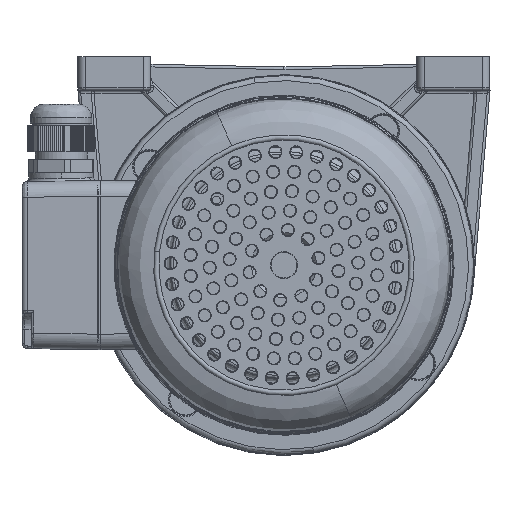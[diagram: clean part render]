
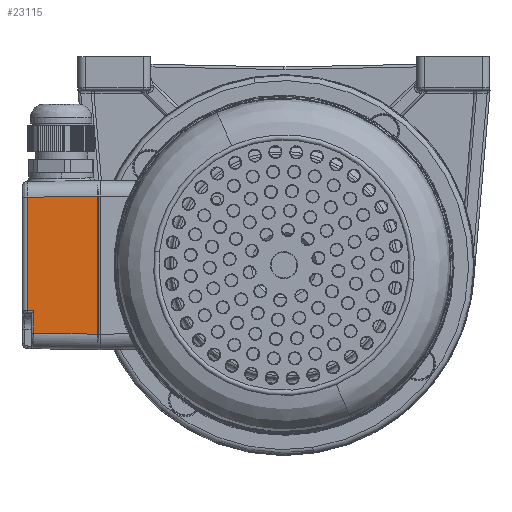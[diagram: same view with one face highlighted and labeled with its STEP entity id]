
A CAD part, front view. The second image highlights one B-rep face of the part: STEP entity #23115.
In plain terms, the highlighted planar face has unit normal (-0.018, -1, 0) as drawn and (-1, 0, 0.017) by its records, which use the part's own axes.
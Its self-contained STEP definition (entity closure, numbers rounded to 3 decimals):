
#15625 = VECTOR ( 'NONE', #25390, 1000. ) ;
#15701 = VECTOR ( 'NONE', #25839, 1000. ) ;
#15706 = VECTOR ( 'NONE', #25879, 1000. ) ;
#15709 = VECTOR ( 'NONE', #25885, 1000. ) ;
#15712 = VECTOR ( 'NONE', #25891, 1000. ) ;
#15716 = VECTOR ( 'NONE', #25897, 1000. ) ;
#23115 = ADVANCED_FACE ( 'NONE', ( #107122 ), #108549, .T. ) ;
#25386 = LINE ( 'NONE', #25388, #15625 ) ;
#25388 = CARTESIAN_POINT ( 'NONE',  ( -32.011, 17.473, 28.035 ) ) ;
#25390 = DIRECTION ( 'NONE',  ( 0., -1., 0. ) ) ;
#25835 = LINE ( 'NONE', #25837, #15701 ) ;
#25837 = CARTESIAN_POINT ( 'NONE',  ( -32.5, -26.501, 0. ) ) ;
#25839 = DIRECTION ( 'NONE',  ( -0.017, -0.017, -1. ) ) ;
#25875 = LINE ( 'NONE', #25877, #15706 ) ;
#25877 = CARTESIAN_POINT ( 'NONE',  ( -32.055, -29.151, 25.517 ) ) ;
#25879 = DIRECTION ( 'NONE',  ( 0., 1., 0. ) ) ;
#25881 = LINE ( 'NONE', #25883, #15709 ) ;
#25883 = CARTESIAN_POINT ( 'NONE',  ( -32.011, 17.473, 28.035 ) ) ;
#25885 = DIRECTION ( 'NONE',  ( -0.017, 0.017, -1. ) ) ;
#25887 = LINE ( 'NONE', #25889, #15712 ) ;
#25889 = CARTESIAN_POINT ( 'NONE',  ( -32.055, 26.056, 25.517 ) ) ;
#25891 = DIRECTION ( 'NONE',  ( -0.017, 0.017, -1. ) ) ;
#25893 = LINE ( 'NONE', #25895, #15716 ) ;
#25895 = CARTESIAN_POINT ( 'NONE',  ( -32.5, -29.151, 0. ) ) ;
#25897 = DIRECTION ( 'NONE',  ( 0., -1., 0. ) ) ;
#32689 = EDGE_CURVE ( 'NONE', #39017, #39029, #25386, .T. ) ;
#32776 = EDGE_CURVE ( 'NONE', #39029, #38832, #25835, .T. ) ;
#32785 = EDGE_CURVE ( 'NONE', #38821, #38824, #25875, .T. ) ;
#32787 = EDGE_CURVE ( 'NONE', #39017, #38821, #25881, .T. ) ;
#32789 = EDGE_CURVE ( 'NONE', #38824, #38934, #25887, .T. ) ;
#32792 = EDGE_CURVE ( 'NONE', #38934, #38832, #25893, .T. ) ;
#33652 = ORIENTED_EDGE ( 'NONE', *, *, #32787, .T. ) ;
#33653 = ORIENTED_EDGE ( 'NONE', *, *, #32789, .T. ) ;
#33654 = ORIENTED_EDGE ( 'NONE', *, *, #32785, .T. ) ;
#33655 = ORIENTED_EDGE ( 'NONE', *, *, #32792, .T. ) ;
#33656 = ORIENTED_EDGE ( 'NONE', *, *, #32776, .F. ) ;
#33657 = ORIENTED_EDGE ( 'NONE', *, *, #32689, .F. ) ;
#38591 = EDGE_LOOP ( 'NONE', ( #33652, #33654, #33653, #33655, #33656, #33657 ) ) ;
#38821 = VERTEX_POINT ( 'NONE', #65755 ) ;
#38824 = VERTEX_POINT ( 'NONE', #65758 ) ;
#38832 = VERTEX_POINT ( 'NONE', #65766 ) ;
#38934 = VERTEX_POINT ( 'NONE', #65868 ) ;
#39017 = VERTEX_POINT ( 'NONE', #65951 ) ;
#39029 = VERTEX_POINT ( 'NONE', #65963 ) ;
#65755 = CARTESIAN_POINT ( 'NONE',  ( -32.055, 17.517, 25.517 ) ) ;
#65758 = CARTESIAN_POINT ( 'NONE',  ( -32.055, 26.056, 25.517 ) ) ;
#65766 = CARTESIAN_POINT ( 'NONE',  ( -32.5, -26.501, 0. ) ) ;
#65868 = CARTESIAN_POINT ( 'NONE',  ( -32.5, 26.501, 0. ) ) ;
#65951 = CARTESIAN_POINT ( 'NONE',  ( -32.011, 17.473, 28.035 ) ) ;
#65963 = CARTESIAN_POINT ( 'NONE',  ( -32.011, -26.012, 28.035 ) ) ;
#107119 = AXIS2_PLACEMENT_3D ( 'NONE', #108550, #108551, #108552 ) ;
#107122 = FACE_OUTER_BOUND ( 'NONE', #38591, .T. ) ;
#108549 = PLANE ( 'NONE',  #107119 ) ;
#108550 = CARTESIAN_POINT ( 'NONE',  ( -31.986, -29.151, 29.437 ) ) ;
#108551 = DIRECTION ( 'NONE',  ( -1., 0., 0.017 ) ) ;
#108552 = DIRECTION ( 'NONE',  ( 0.017, 0., 1. ) ) ;
